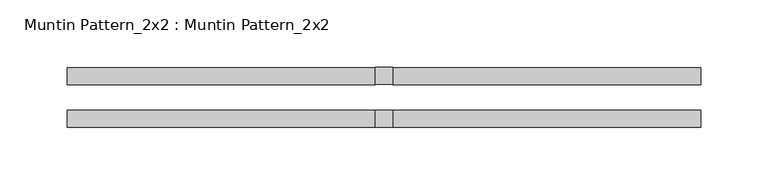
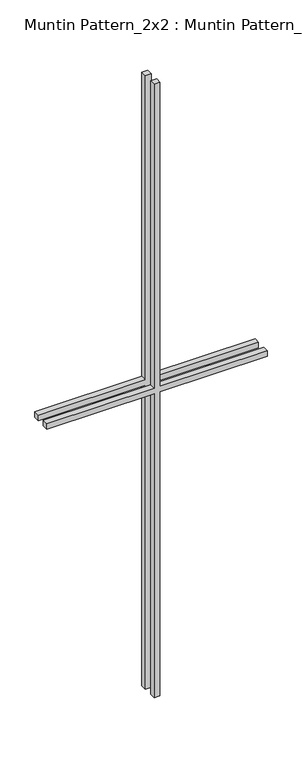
"""IFC4 building model written with IfcOpenShell, lengths in millimetres: proxy geometry, Muntin Pattern_2x2 : Muntin Pattern_2x2."""

import ifcopenshell
import ifcopenshell.guid

model = None  # the IFC model being written
_history = None  # IfcOwnerHistory: only IFC2X3 demands one
_inside = {}  # id of a spatial element -> (the spatial element, [elements in it])
_under = {}  # id of a project, library or spatial element -> (it, [spatial elements below it])
_declared = {}  # id of a project -> (the project, [libraries it declares])
_typed = {}  # id of a type object -> (the type object, [elements of that type])
_made_of = {}  # id of a material, layer set ... -> (it, [elements and type objects made of it])


def new_model(schema):
    """Start an empty IFC model of exactly this schema.

    Asked for "IFC4X3", IfcOpenShell would pick the latest addendum, in which some entities
    have other attributes; the version numbers below select the first issue.
    IFC2X3 requires an IfcOwnerHistory on every rooted entity: one is made here for all.
    """
    global model, _history
    if schema == "IFC4X3":
        model = ifcopenshell.file(schema_version=(4, 3, 0, 0))
    else:
        model = ifcopenshell.file(schema=schema)
    _inside.clear()
    _under.clear()
    _declared.clear()
    _typed.clear()
    _made_of.clear()
    _history = None
    if model.schema == "IFC2X3":
        org = make("IfcOrganization", Name="unknown")
        user = make(
            "IfcPersonAndOrganization",
            ThePerson=make("IfcPerson", FamilyName="unknown"),
            TheOrganization=org,
        )
        app = make(
            "IfcApplication",
            ApplicationDeveloper=org,
            Version="unknown",
            ApplicationFullName="unknown",
            ApplicationIdentifier="unknown",
        )
        _history = make(
            "IfcOwnerHistory",
            OwningUser=user,
            OwningApplication=app,
            ChangeAction="ADDED",
            CreationDate=0,
        )
    return model


def make(cls, **values):
    """One entity of the class cls with the attributes given. An attribute that is None is left unset."""
    return model.create_entity(
        cls, **{name: value for name, value in values.items() if value is not None}
    )


def rooted(cls, **values):
    """An entity with a GlobalId (a new one), such as an element, a storey or a relation."""
    return make(cls, GlobalId=ifcopenshell.guid.new(), OwnerHistory=_history, **values)


def si_unit(unit_type, name, prefix=None):
    """IfcSIUnit, for example si_unit("LENGTHUNIT", "METRE", prefix="MILLI")."""
    return make("IfcSIUnit", UnitType=unit_type, Prefix=prefix, Name=name)


def assignment(units):
    """IfcUnitAssignment: the units of a project."""
    return None if units is None else make("IfcUnitAssignment", Units=units)


def point(xyz):
    """IfcCartesianPoint."""
    return None if xyz is None else make("IfcCartesianPoint", Coordinates=xyz)


def direction(xyz):
    """IfcDirection."""
    return None if xyz is None else make("IfcDirection", DirectionRatios=xyz)


def frame(location, z_axis=None, x_axis=None):
    """IfcAxis2Placement3D, a coordinate frame: its origin and axes. An axis left out is left unset."""
    return make(
        "IfcAxis2Placement3D",
        Location=point(location),
        Axis=direction(z_axis),
        RefDirection=direction(x_axis),
    )


def origin():
    """The frame at (0, 0, 0) with its axes left unset."""
    return frame((0.0, 0.0, 0.0))


def place(relative_to, where):
    """IfcLocalPlacement: puts the frame where relative to a parent placement (None: the world)."""
    return make(
        "IfcLocalPlacement", PlacementRelTo=relative_to, RelativePlacement=where
    )


def context(
    kind, dimensions, precision=None, world=None, true_north=None, identifier=None
):
    """IfcGeometricRepresentationContext, for example the 3D "Model" context."""
    return make(
        "IfcGeometricRepresentationContext",
        ContextIdentifier=identifier,
        ContextType=kind,
        CoordinateSpaceDimension=dimensions,
        Precision=precision,
        WorldCoordinateSystem=world,
        TrueNorth=true_north,
    )


def project(units=None, contexts=None):
    """IfcProject with its units and contexts."""
    return rooted(
        "IfcProject",
        Name="project",
        RepresentationContexts=contexts,
        UnitsInContext=assignment(units),
    )


def spatial(cls, under=None, at=None, **own):
    """A site, building, storey or space (cls), placed at a placement, below another one or the project."""
    s = rooted(cls, ObjectPlacement=at, **own)
    if under is not None:
        _under.setdefault(under.id(), (under, []))[1].append(s)
    return s


def polyline(points):
    """IfcPolyline through the points."""
    return make("IfcPolyline", Points=[point(p) for p in points])


def outline(outer, holes=None, kind="AREA"):
    """IfcArbitraryClosedProfileDef: a profile drawn as a closed curve; with holes, ...WithVoids."""
    if holes is None:
        return make("IfcArbitraryClosedProfileDef", ProfileType=kind, OuterCurve=outer)
    return make(
        "IfcArbitraryProfileDefWithVoids",
        ProfileType=kind,
        OuterCurve=outer,
        InnerCurves=holes,
    )


def extrude(swept, where, along, depth):
    """IfcExtrudedAreaSolid: the profile swept, set in the frame where, extruded along a direction by depth."""
    return make(
        "IfcExtrudedAreaSolid",
        SweptArea=swept,
        Position=where,
        ExtrudedDirection=direction(along),
        Depth=depth,
    )


def shape(context_of_items, identifier, shape_type, items):
    """IfcShapeRepresentation: the items that make up one representation, for example the "Body"."""
    return make(
        "IfcShapeRepresentation",
        ContextOfItems=context_of_items,
        RepresentationIdentifier=identifier,
        RepresentationType=shape_type,
        Items=items,
    )


def source(mapping_origin, context_of_items, identifier, shape_type, items):
    """IfcRepresentationMap: a shape defined once, which mapped items show again and again."""
    return make(
        "IfcRepresentationMap",
        MappingOrigin=mapping_origin,
        MappedRepresentation=shape(context_of_items, identifier, shape_type, items),
    )


def transform(
    local_origin,
    x_axis=None,
    y_axis=None,
    z_axis=None,
    scale=None,
    scale2=None,
    scale3=None,
    uniform=True,
):
    """IfcCartesianTransformationOperator3D, or its non-uniform kind. x_axis, y_axis, z_axis: its Axis1, 2, 3."""
    if uniform:
        return make(
            "IfcCartesianTransformationOperator3D",
            Axis1=direction(x_axis),
            Axis2=direction(y_axis),
            LocalOrigin=point(local_origin),
            Scale=scale,
            Axis3=direction(z_axis),
        )
    return make(
        "IfcCartesianTransformationOperator3DnonUniform",
        Axis1=direction(x_axis),
        Axis2=direction(y_axis),
        LocalOrigin=point(local_origin),
        Scale=scale,
        Axis3=direction(z_axis),
        Scale2=scale2,
        Scale3=scale3,
    )


def mapped(mapping_source, mapping_target):
    """IfcMappedItem: shows the shape of a source again, moved by a transform."""
    return make(
        "IfcMappedItem", MappingSource=mapping_source, MappingTarget=mapping_target
    )


def made_of(thing, what):
    """Note that an element or type object is made of a material, layer set ...; save() writes the relation."""
    if what is not None:
        _made_of.setdefault(what.id(), (what, []))[1].append(thing)
    return thing


def element(
    cls,
    number,
    at=None,
    inside=None,
    cuts=None,
    type_object=None,
    material=None,
    context=None,
    identifier="Body",
    shape_type=None,
    held_by="IfcProductDefinitionShape",
    body=None,
    shapes=None,
    **own,
):
    """One element of the class cls, such as IfcWall. Its Tag is "e" and its number.

    at: its placement. inside: the storey or other place that contains it. cuts: it is an
    opening in that element (IfcRelVoidsElement). A single representation is given by context,
    identifier, shape_type and body (its items); several are given by shapes. held_by: the class
    of the entity that holds the representations. save() writes the other relations.
    """
    e = rooted(cls, Tag="e%d" % number, ObjectPlacement=at, **own)
    if body is not None:
        shapes = [shape(context, identifier, shape_type, body)]
    if shapes is not None:
        e.Representation = make(held_by, Representations=shapes)
    if inside is not None:
        _inside.setdefault(inside.id(), (inside, []))[1].append(e)
    if cuts is not None:
        rooted(
            "IfcRelVoidsElement", RelatingBuildingElement=cuts, RelatedOpeningElement=e
        )
    if type_object is not None:
        _typed.setdefault(type_object.id(), (type_object, []))[1].append(e)
    return made_of(e, material)


def aggregate(whole, parts):
    """IfcRelAggregates: a whole, such as a stair, and the parts it consists of."""
    return rooted("IfcRelAggregates", RelatingObject=whole, RelatedObjects=parts)


def save(model, path):
    """Write the relations noted so far, then the file.

    IfcRelAggregates (storeys below a building ...), IfcRelContainedInSpatialStructure (elements
    in a storey), IfcRelDefinesByType, IfcRelAssociatesMaterial and IfcRelDeclares: one each for
    every whole, place, type object, material and project.
    """
    for whole, parts in _under.values():
        aggregate(whole, parts)
    for where, things in _inside.values():
        rooted(
            "IfcRelContainedInSpatialStructure",
            RelatedElements=things,
            RelatingStructure=where,
        )
    for kind, things in _typed.values():
        rooted("IfcRelDefinesByType", RelatedObjects=things, RelatingType=kind)
    for what, things in _made_of.values():
        rooted("IfcRelAssociatesMaterial", RelatedObjects=things, RelatingMaterial=what)
    for by, libraries in _declared.values():
        rooted("IfcRelDeclares", RelatingContext=by, RelatedDefinitions=libraries)
    model.write(path)


def muntin_pattern_2x2_muntin_pattern_2x2_8031e6f6(model_context):
    return source(origin(), model_context, "Body", "SweptSolid", [
        extrude(outline(polyline([(698.5, -6.35), (698.5, -234.95), (685.8, -234.95), (685.8, -6.35), (0.0, -6.35), (0.0, 6.35), (685.8, 6.35), (685.8, 234.95), (698.5, 234.95), (698.5, 6.35), (1384.3, 6.35), (1384.3, -6.35), (698.5, -6.35)])), frame((0.0, 9.525, 0.0), z_axis=(0.0, 1.0, 0.0), x_axis=(0.0, 0.0, 1.0)), (0.0, 0.0, 1.0), 12.7),
        extrude(outline(polyline([(698.5, -6.35), (698.5, -234.95), (685.8, -234.95), (685.8, -6.35), (0.0, -6.35), (0.0, 6.35), (685.8, 6.35), (685.8, 234.95), (698.5, 234.95), (698.5, 6.35), (1384.3, 6.35), (1384.3, -6.35), (698.5, -6.35)])), frame((0.0, -22.225, 0.0), z_axis=(0.0, 1.0, 0.0), x_axis=(0.0, 0.0, 1.0)), (0.0, 0.0, 1.0), 12.7),
    ])


if __name__ == "__main__":
    model = new_model("IFC4")
    model_context = context("Model", 3, world=origin())
    ifc_project = project(units=[si_unit("LENGTHUNIT", "METRE", prefix="MILLI")], contexts=[model_context])
    site = spatial("IfcSite", under=ifc_project)
    building = spatial("IfcBuilding", under=site)
    placement = place(None, origin())
    muntin_pattern_2x2_muntin_pattern_2x2_shape = muntin_pattern_2x2_muntin_pattern_2x2_8031e6f6(model_context)
    element("IfcBuildingElementProxy", 1, Name="Muntin Pattern_2x2 : Muntin Pattern_2x2", ObjectType="Muntin Pattern_2x2 : Muntin Pattern_2x2", at=placement, inside=building, context=model_context, shape_type="MappedRepresentation", body=[
        mapped(muntin_pattern_2x2_muntin_pattern_2x2_shape, transform((0.0, 0.0, 0.0), x_axis=(1.0, 0.0, 0.0), y_axis=(0.0, 1.0, 0.0), z_axis=(0.0, 0.0, 1.0))),
    ])
    save(model, "model.ifc")
